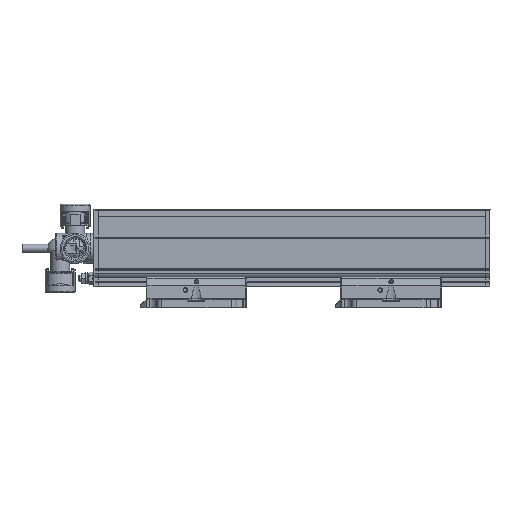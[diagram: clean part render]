
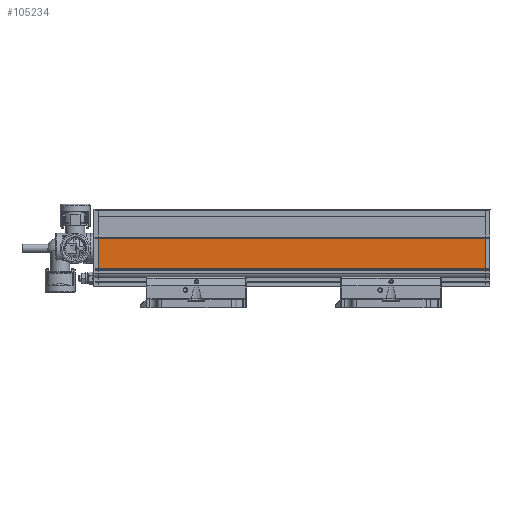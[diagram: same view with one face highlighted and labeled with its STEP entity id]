
A CAD part, front view. The second image highlights one B-rep face of the part: STEP entity #105234.
In plain terms, the highlighted planar face has unit normal (0, -1, 0) as drawn and (-1, 0, 0) by its records, which use the part's own axes.
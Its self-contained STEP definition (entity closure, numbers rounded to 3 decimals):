
#1447=VECTOR('',#69410,1.);
#1482=VECTOR('',#69529,1.);
#1519=VECTOR('',#69642,1.);
#1520=VECTOR('',#69645,1.);
#4215=LINE('',#79487,#1447);
#4250=LINE('',#79637,#1482);
#4287=LINE('',#79714,#1519);
#4288=LINE('',#79716,#1520);
#45473=PLANE('',#101545);
#46635=ORIENTED_EDGE('',*,*,#60421,.F.);
#46636=ORIENTED_EDGE('',*,*,#60381,.F.);
#46637=ORIENTED_EDGE('',*,*,#60420,.T.);
#46638=ORIENTED_EDGE('',*,*,#60306,.F.);
#57294=VERTEX_POINT('',#79484);
#57295=VERTEX_POINT('',#79486);
#57367=VERTEX_POINT('',#79634);
#57368=VERTEX_POINT('',#79636);
#60306=EDGE_CURVE('',#57294,#57295,#4215,.T.);
#60381=EDGE_CURVE('',#57367,#57368,#4250,.T.);
#60420=EDGE_CURVE('',#57367,#57295,#4287,.T.);
#60421=EDGE_CURVE('',#57368,#57294,#4288,.T.);
#65045=EDGE_LOOP('',(#46635,#46636,#46637,#46638));
#67221=FACE_BOUND('',#65045,.T.);
#69410=DIRECTION('',(0.,-20.3,0.));
#69529=DIRECTION('',(0.,20.3,0.));
#69642=DIRECTION('',(0.,0.,258.4));
#69643=DIRECTION('',(-1.,0.,0.));
#69644=DIRECTION('',(0.,1.,0.));
#69645=DIRECTION('',(0.,0.,258.4));
#79484=CARTESIAN_POINT('',(49.046,34.279,258.4));
#79486=CARTESIAN_POINT('',(49.046,13.979,258.4));
#79487=CARTESIAN_POINT('',(49.046,34.279,258.4));
#79634=CARTESIAN_POINT('',(49.046,13.979,0.));
#79636=CARTESIAN_POINT('',(49.046,34.279,0.));
#79637=CARTESIAN_POINT('',(49.046,13.979,0.));
#79714=CARTESIAN_POINT('',(49.046,13.979,0.));
#79715=CARTESIAN_POINT('',(49.046,34.279,0.));
#79716=CARTESIAN_POINT('',(49.046,34.279,0.));
#101545=AXIS2_PLACEMENT_3D('',#79715,#69643,#69644);
#105234=ADVANCED_FACE('',(#67221),#45473,.T.);
